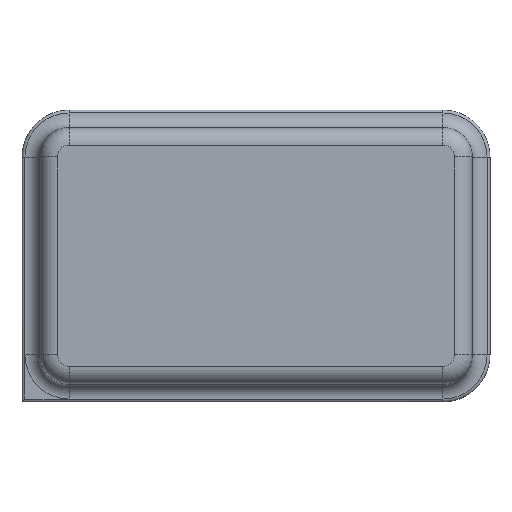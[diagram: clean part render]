
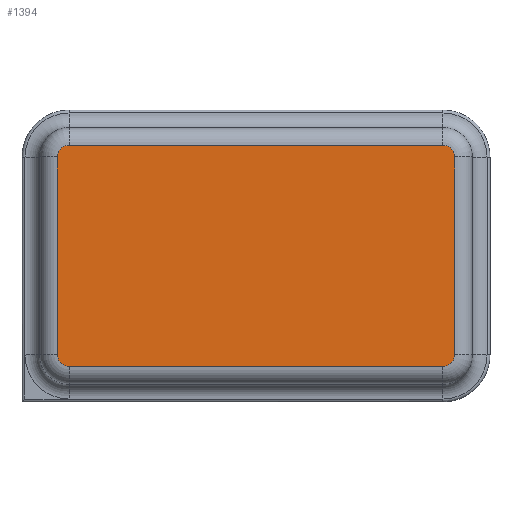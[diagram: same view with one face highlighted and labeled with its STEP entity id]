
A CAD part, top view. The second image highlights one B-rep face of the part: STEP entity #1394.
In plain terms, the highlighted planar face has unit normal (0, 0, 1).
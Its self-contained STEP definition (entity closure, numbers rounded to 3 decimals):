
#763 = CARTESIAN_POINT ( 'NONE',  ( -8.576, 4.268, 5.08 ) ) ;
#764 = VERTEX_POINT ( 'NONE', #763 ) ;
#772 = CARTESIAN_POINT ( 'NONE',  ( -8.068, 4.776, 5.08 ) ) ;
#773 = VERTEX_POINT ( 'NONE', #772 ) ;
#774 = CARTESIAN_POINT ( 'NONE',  ( -8.068, 4.268, 5.08 ) ) ;
#775 = DIRECTION ( 'NONE',  ( 0., 0., 1. ) ) ;
#776 = DIRECTION ( 'NONE',  ( 0., -1., 0. ) ) ;
#777 = AXIS2_PLACEMENT_3D ( 'NONE', #774, #775, #776 ) ;
#778 = CIRCLE ( 'NONE', #777, 0.508) ;
#779 = EDGE_CURVE ( 'NONE', #773, #764, #778, .T. ) ;
#1329 = CARTESIAN_POINT ( 'NONE',  ( 8.576, -4.268, 5.08 ) ) ;
#1330 = VERTEX_POINT ( 'NONE', #1329 ) ;
#1331 = CARTESIAN_POINT ( 'NONE',  ( 8.576, 4.268, 5.08 ) ) ;
#1332 = VERTEX_POINT ( 'NONE', #1331 ) ;
#1333 = CARTESIAN_POINT ( 'NONE',  ( 8.576, 4.268, 5.08 ) ) ;
#1334 = DIRECTION ( 'NONE',  ( 0., 1., 0. ) ) ;
#1335 = VECTOR ( 'NONE', #1334, 1000. ) ;
#1336 = LINE ( 'NONE', #1333, #1335 ) ;
#1337 = EDGE_CURVE ( 'NONE', #1330, #1332, #1336, .T. ) ;
#1338 = ORIENTED_EDGE ( 'NONE', *, *, #1337, .T. ) ;
#1339 = CARTESIAN_POINT ( 'NONE',  ( 8.068, 4.776, 5.08 ) ) ;
#1340 = VERTEX_POINT ( 'NONE', #1339 ) ;
#1341 = CARTESIAN_POINT ( 'NONE',  ( 8.068, 4.268, 5.08 ) ) ;
#1342 = DIRECTION ( 'NONE',  ( 0., 0., 1. ) ) ;
#1343 = DIRECTION ( 'NONE',  ( 0., -1., 0. ) ) ;
#1344 = AXIS2_PLACEMENT_3D ( 'NONE', #1341, #1342, #1343 ) ;
#1345 = CIRCLE ( 'NONE', #1344, 0.508) ;
#1346 = EDGE_CURVE ( 'NONE', #1332, #1340, #1345, .T. ) ;
#1347 = ORIENTED_EDGE ( 'NONE', *, *, #1346, .T. ) ;
#1348 = CARTESIAN_POINT ( 'NONE',  ( -8.068, 4.776, 5.08 ) ) ;
#1349 = DIRECTION ( 'NONE',  ( -1., 0., 0. ) ) ;
#1350 = VECTOR ( 'NONE', #1349, 1000. ) ;
#1351 = LINE ( 'NONE', #1348, #1350 ) ;
#1352 = EDGE_CURVE ( 'NONE', #1340, #773, #1351, .T. ) ;
#1353 = ORIENTED_EDGE ( 'NONE', *, *, #1352, .T. ) ;
#1354 = ORIENTED_EDGE ( 'NONE', *, *, #779, .T. ) ;
#1355 = CARTESIAN_POINT ( 'NONE',  ( -8.576, -4.268, 5.08 ) ) ;
#1356 = VERTEX_POINT ( 'NONE', #1355 ) ;
#1357 = CARTESIAN_POINT ( 'NONE',  ( -8.576, -4.268, 5.08 ) ) ;
#1358 = DIRECTION ( 'NONE',  ( 0., -1., 0. ) ) ;
#1359 = VECTOR ( 'NONE', #1358, 1000. ) ;
#1360 = LINE ( 'NONE', #1357, #1359 ) ;
#1361 = EDGE_CURVE ( 'NONE', #764, #1356, #1360, .T. ) ;
#1362 = ORIENTED_EDGE ( 'NONE', *, *, #1361, .T. ) ;
#1363 = CARTESIAN_POINT ( 'NONE',  ( -8.068, -4.776, 5.08 ) ) ;
#1364 = VERTEX_POINT ( 'NONE', #1363 ) ;
#1365 = CARTESIAN_POINT ( 'NONE',  ( -8.068, -4.268, 5.08 ) ) ;
#1366 = DIRECTION ( 'NONE',  ( 0., 0., 1. ) ) ;
#1367 = DIRECTION ( 'NONE',  ( 0., -1., 0. ) ) ;
#1368 = AXIS2_PLACEMENT_3D ( 'NONE', #1365, #1366, #1367 ) ;
#1369 = CIRCLE ( 'NONE', #1368, 0.508) ;
#1370 = EDGE_CURVE ( 'NONE', #1356, #1364, #1369, .T. ) ;
#1371 = ORIENTED_EDGE ( 'NONE', *, *, #1370, .T. ) ;
#1372 = CARTESIAN_POINT ( 'NONE',  ( 8.068, -4.776, 5.08 ) ) ;
#1373 = VERTEX_POINT ( 'NONE', #1372 ) ;
#1374 = CARTESIAN_POINT ( 'NONE',  ( 8.068, -4.776, 5.08 ) ) ;
#1375 = DIRECTION ( 'NONE',  ( 1., 0., 0. ) ) ;
#1376 = VECTOR ( 'NONE', #1375, 1000. ) ;
#1377 = LINE ( 'NONE', #1374, #1376 ) ;
#1378 = EDGE_CURVE ( 'NONE', #1364, #1373, #1377, .T. ) ;
#1379 = ORIENTED_EDGE ( 'NONE', *, *, #1378, .T. ) ;
#1380 = CARTESIAN_POINT ( 'NONE',  ( 8.068, -4.268, 5.08 ) ) ;
#1381 = DIRECTION ( 'NONE',  ( 0., 0., 1. ) ) ;
#1382 = DIRECTION ( 'NONE',  ( 0., -1., 0. ) ) ;
#1383 = AXIS2_PLACEMENT_3D ( 'NONE', #1380, #1381, #1382 ) ;
#1384 = CIRCLE ( 'NONE', #1383, 0.508) ;
#1385 = EDGE_CURVE ( 'NONE', #1373, #1330, #1384, .T. ) ;
#1386 = ORIENTED_EDGE ( 'NONE', *, *, #1385, .T. ) ;
#1387 = EDGE_LOOP ( 'NONE', ( #1338, #1347, #1353, #1354, #1362, #1371, #1379, #1386 ) ) ;
#1388 = FACE_OUTER_BOUND ( 'NONE', #1387, .T. ) ;
#1389 = CARTESIAN_POINT ( 'NONE',  ( -10.1, -6.3, 5.08 ) ) ;
#1390 = DIRECTION ( 'NONE',  ( 0., 0., 1. ) ) ;
#1391 = DIRECTION ( 'NONE',  ( 0., -1., 0. ) ) ;
#1392 = AXIS2_PLACEMENT_3D ( 'NONE', #1389, #1390, #1391 ) ;
#1393 = PLANE ( 'NONE', #1392 ) ;
#1394 = ADVANCED_FACE ( 'NONE', ( #1388 ), #1393, .T. ) ;
